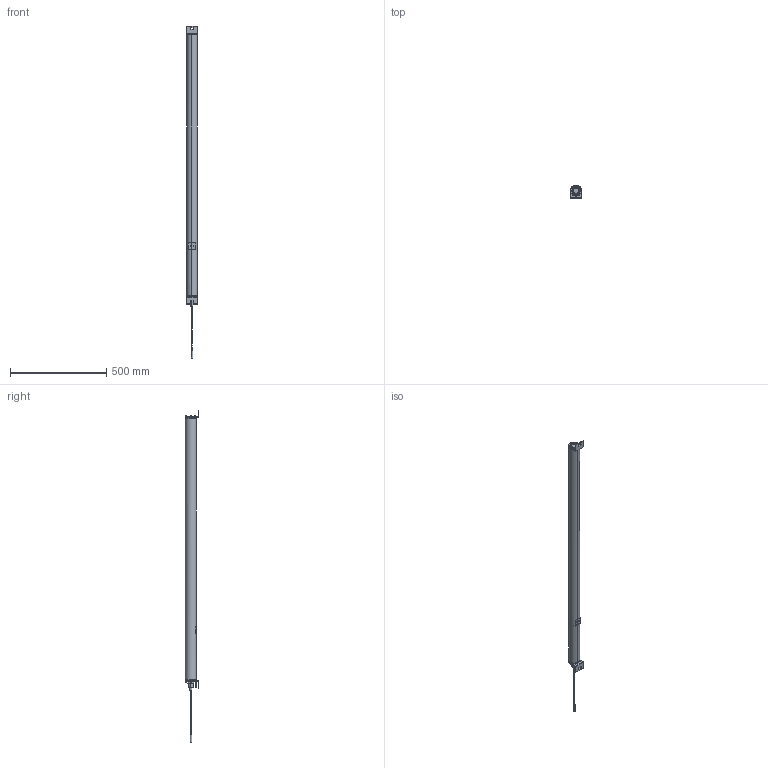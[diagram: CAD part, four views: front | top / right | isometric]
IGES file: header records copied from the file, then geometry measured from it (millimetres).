
Global section: file name: C:\ACADFILES\SS_PYLONS\CUSTOMER_FILES\SS-52-PYLON_3D_SMB_PT.igs; native system: AutoCAD-18.2s (LMS Tech) (Microsoft Windows NT Version 6.1 (x86)); preprocessor: Autodesk IGES Translator Mechanical Desktop 2011 (Feb 18 2011) from Autodesk, Inc.; date: 20140326.145357; units: inch
Bounding box: 57.29 x 69.85 x 1727.57 mm (x, y, z)
Surface area: 1054364.1 mm2 (no closed solid volume)
Topology: 0 solids, 0 shells, 1800 faces, 9329 edges, 9504 vertices
Faces by surface type: bspline 1800
